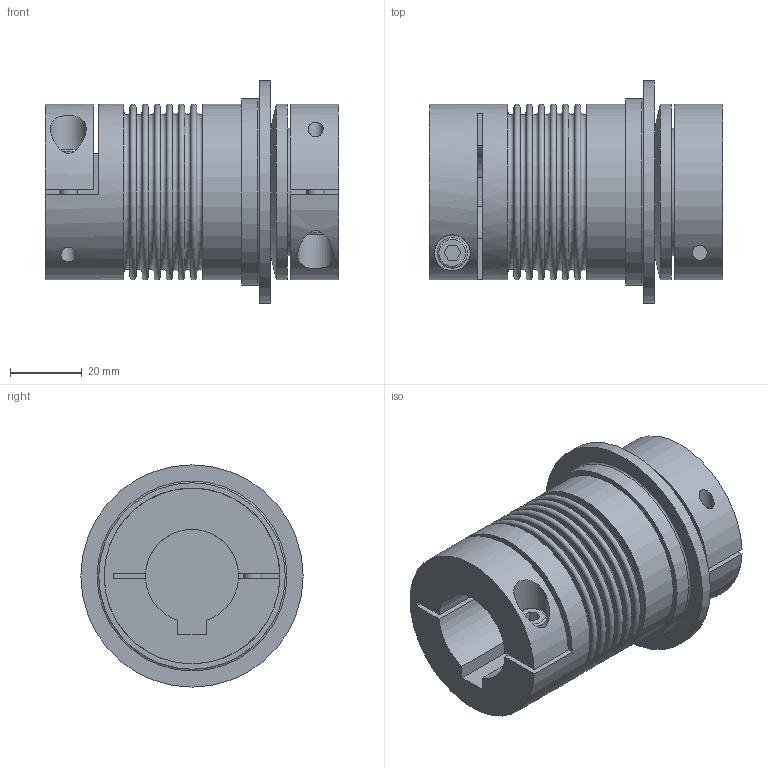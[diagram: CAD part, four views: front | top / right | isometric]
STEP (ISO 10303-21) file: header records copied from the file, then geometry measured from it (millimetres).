
FILE_DESCRIPTION(/* description */ ('STEP AP214'),/* implementation_level */ '2;1');
FILE_NAME(/* name */ 'C:\Diequa Files\DieQua Coupling\TB2\STP\TB2.15.82.F.#.#.stp',/* time_stamp */ '2019-04-26T10:38:36-05:00',/* author */ ('DiequaCAD'),/* organization */ (''),/* preprocessor_version */ 'ST-DEVELOPER v18',/* originating_system */ 'Autodesk Inventor 2020',/* authorisation */ ' ');
FILE_SCHEMA (('AUTOMOTIVE_DESIGN { 1 0 10303 214 3 1 1 }'));
Length unit declared in the file: millimetre
Products named in the file (1): TB2.15.82.F.#.#
Bounding box: 82 x 62 x 62 mm (x, y, z)
Volume: 125181.7 mm3; surface area: 33810.7 mm2
Topology: 1 solids, 1 shells, 98 faces, 232 edges, 164 vertices
Faces by surface type: plane 61, cylinder 20, torus 16, cone 1
Full cylindrical faces by diameter (mm): 4.2 x2, 5 x2, 5.5 x2, 8.5 x2, 10 x2, 35.5 x1, 49 x3, 52 x1, 62 x1
Entity records: 3121 total; most frequent: CARTESIAN_POINT 647, DIRECTION 547, ORIENTED_EDGE 464, EDGE_CURVE 232, AXIS2_PLACEMENT_3D 222, VERTEX_POINT 164, EDGE_LOOP 130, CIRCLE 123
